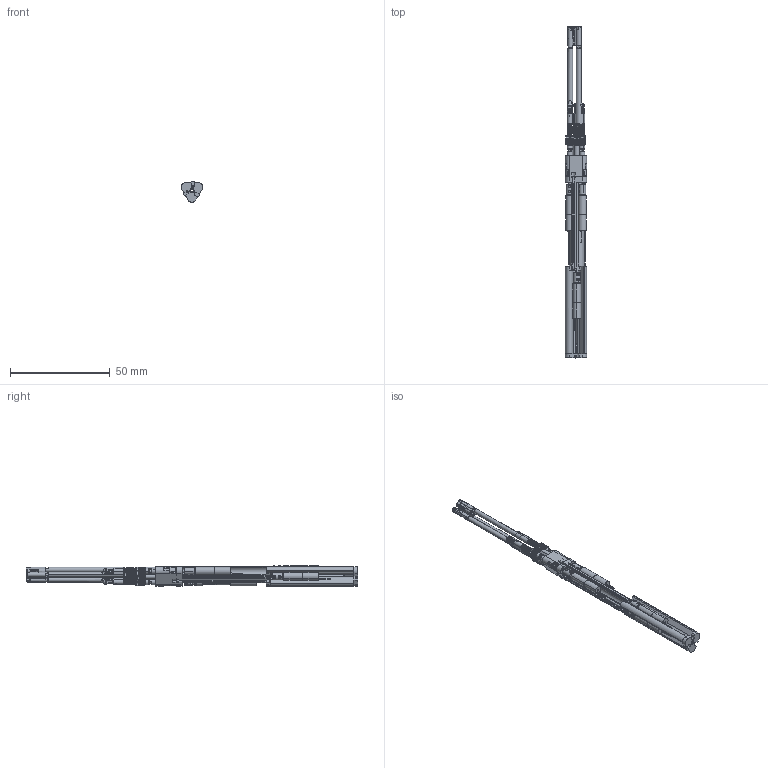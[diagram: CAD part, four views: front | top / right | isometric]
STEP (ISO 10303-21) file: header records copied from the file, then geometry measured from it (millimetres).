
FILE_DESCRIPTION (( 'STEP AP214' ), '1' );
FILE_NAME ('Trillium2_Robot_2022-03-14.STEP', '2022-03-15T01:15:54', ( '' ), ( '' ), 'SwSTEP 2.0', 'SolidWorks 2016', '' );
FILE_SCHEMA (( 'AUTOMOTIVE_DESIGN' ));
Length unit declared in the file: millimetre
Products named in the file (32): Trillium Alpha Stop Shaft Side; MM Fiber Clip_005; McMaster 93740A010_98195A010; Trillium Beta Frictioner_02; Trillium2 Alpha Base; Trillium2_Robot_2022-03-14; McMaster 93600A134_93600A134; Trillium Namiki SBL04-08 Prototype 2_off the shelf; Trillium2 Shaft Coupler Set Screw_modified; Trillium Motor Block; Trillium Arms; Trillium Beta Arm Gear; Trillium Alpha Stop Idler; Trillium Motor Dummy Housing; Trillium2 Shaft Coupler Assembly; Trillium Beta Fiber Axis; McMaster 8988K391 (modified)_cut; Trillium2 Alpha Shaft; Trillium Fiber Arm_spring; Trillium Fiber Arm Tip_OFF1; Trillium Alpha Frictioner_01; Trillium2 Beta Shaft; Trillium Fiber Arm Chuck_OFF1; Trillium Manual Motor Dummy; Trillium Motor Dummy Rotator; Trillium Bearing Block_outside-in fiber route; Trillium Beta Motor Gear; Trillium Beta Motor Shaft Assy; Trillium Stacked Gear; Trillium2 Front Shaft; Trillium Aft Structure; Trillium2 Shaft Coupler_10
Assembly tree (51 placements, depth 5):
  Trillium2_Robot_2022-03-14
    Trillium Aft Structure
      Trillium Bearing Block_outside-in fiber route
      Trillium Motor Block
      Trillium Alpha Frictioner_01  x3
      McMaster 93740A010_98195A010  x3
    Trillium Namiki SBL04-08 Prototype 2_off the shelf  x4
    Trillium Manual Motor Dummy  x2
      Trillium Motor Dummy Housing
      Trillium Motor Dummy Rotator
      McMaster 93600A134_93600A134
    Trillium Arms  x3
      Trillium2 Alpha Base
      Trillium Beta Frictioner_02
      Trillium Beta Fiber Axis
        Trillium2 Front Shaft
        Trillium Beta Arm Gear
        Trillium Fiber Arm_spring
          Trillium Fiber Arm Tip_OFF1
          Trillium Fiber Arm Chuck_OFF1
          MM Fiber Clip_005
      Trillium Alpha Stop Shaft Side
      Trillium2 Alpha Shaft
      Trillium Stacked Gear
    Trillium Alpha Stop Idler  x3
    Trillium Beta Motor Shaft Assy  x3
      Trillium2 Beta Shaft
      Trillium Beta Motor Gear
    Trillium2 Shaft Coupler Assembly  x6
      Trillium2 Shaft Coupler_10
      Trillium2 Shaft Coupler Set Screw_modified
    McMaster 8988K391 (modified)_cut
Bounding box: 10.6 x 166.1 x 10.25 mm (x, y, z)
Volume: 5894.1 mm3; surface area: 14102.4 mm2
Topology: 76 solids, 76 shells, 4579 faces, 12201 edges, 7705 vertices
Faces by surface type: cylinder 1708, plane 1618, bspline 650, cone 496, torus 104, sphere 3
Entity records: 81662 total; most frequent: CARTESIAN_POINT 37784, ORIENTED_EDGE 9472, DIRECTION 8216, EDGE_CURVE 4736, VERTEX_POINT 3034, AXIS2_PLACEMENT_3D 2951, VECTOR 2314, LINE 2314
